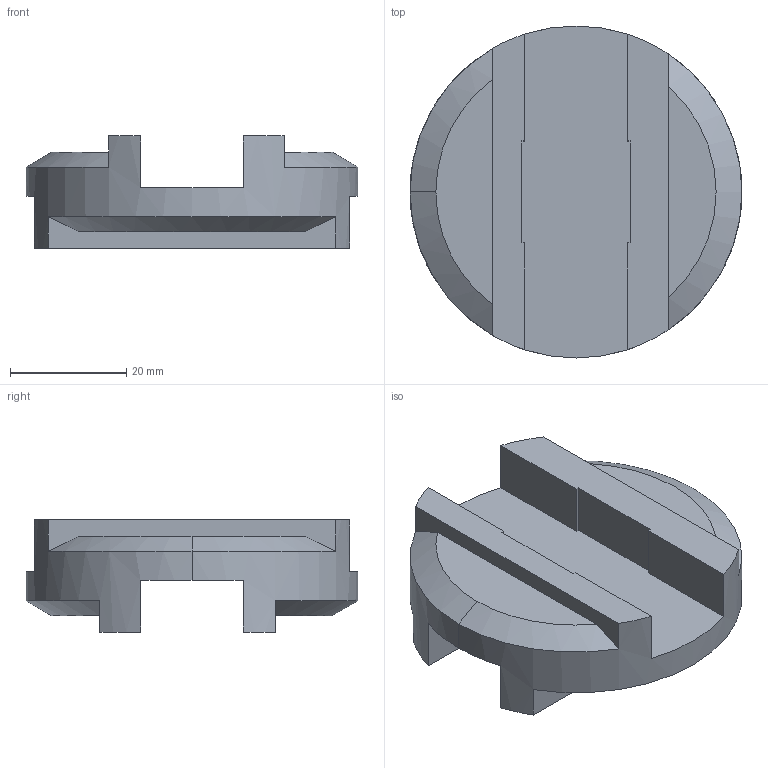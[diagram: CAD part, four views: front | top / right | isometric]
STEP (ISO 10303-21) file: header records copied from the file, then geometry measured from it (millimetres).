
FILE_DESCRIPTION((''),'2;1');
FILE_NAME('OD36-57','2016-09-09T',('SYSTEM'),(''),'PRO/ENGINEER BY PARAMETRIC TECHNOLOGY CORPORATION, 2015110','PRO/ENGINEER BY PARAMETRIC TECHNOLOGY CORPORATION, 2015110','');
FILE_SCHEMA(('AUTOMOTIVE_DESIGN { 1 0 10303 214 1 1 1 1 }'));
Length unit declared in the file: inch
Products named in the file (1): OD36-57
Bounding box: 57.15 x 57.15 x 19.3 mm (x, y, z)
Volume: 25154.4 mm3; surface area: 9417.2 mm2
Topology: 1 solids, 1 shells, 41 faces, 117 edges, 78 vertices
Faces by surface type: plane 34, cone 5, cylinder 2
Entity records: 1705 total; most frequent: CARTESIAN_POINT 272, ORIENTED_EDGE 234, DIRECTION 217, EDGE_CURVE 117, VECTOR 83, LINE 83, VERTEX_POINT 78, AXIS2_PLACEMENT_3D 67
